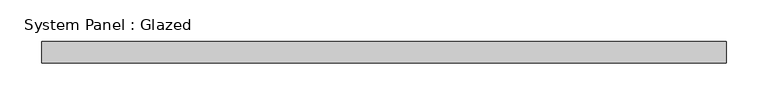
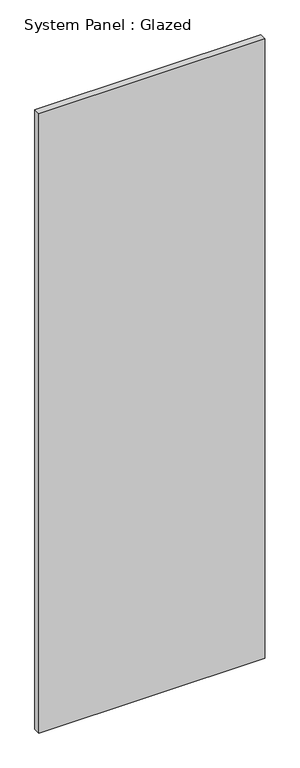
"""IFC4 building model written with IfcOpenShell, lengths in millimetres: plate geometry, System Panel : Glazed."""

from ifc_helpers import new_model, si_unit, origin, origin_with_axes, place, context, project, spatial, polyline, outline, extrude, source, transform, mapped, element, save


def system_panel_glazed_0eb5479c(model_context):
    return source(origin(), model_context, "Body", "SweptSolid", [
        extrude(outline(polyline([(409.575, 19.05), (-409.575, 19.05), (-409.575, 44.45), (409.575, 44.45), (409.575, 19.05)])), origin_with_axes(), (0.0, 0.0, 1.0), 2374.9),
    ])


if __name__ == "__main__":
    model = new_model("IFC4")
    model_context = context("Model", 3, world=origin())
    ifc_project = project(units=[si_unit("LENGTHUNIT", "METRE", prefix="MILLI")], contexts=[model_context])
    site = spatial("IfcSite", under=ifc_project)
    building = spatial("IfcBuilding", under=site)
    placement = place(None, origin())
    system_panel_glazed_shape = system_panel_glazed_0eb5479c(model_context)
    element("IfcPlate", 1, ObjectType="System Panel : Glazed", at=placement, inside=building, context=model_context, shape_type="MappedRepresentation", body=[
        mapped(system_panel_glazed_shape, transform((0.0, 0.0, 0.0), x_axis=(1.0, 0.0, 0.0), y_axis=(0.0, 1.0, 0.0), z_axis=(0.0, 0.0, 1.0))),
    ])
    save(model, "model.ifc")
